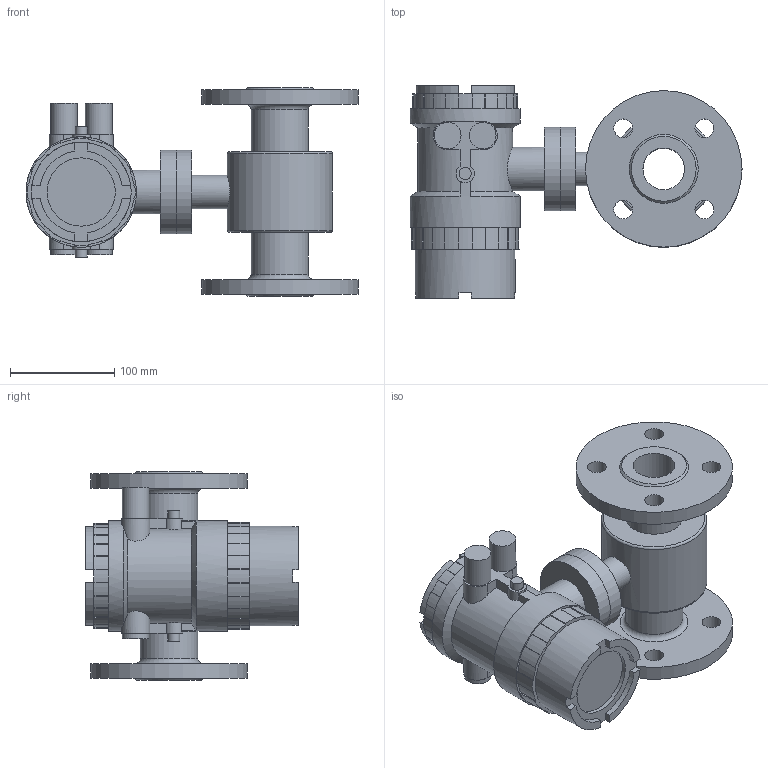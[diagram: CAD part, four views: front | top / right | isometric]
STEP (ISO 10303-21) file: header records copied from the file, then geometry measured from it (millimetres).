
FILE_DESCRIPTION( (''), '2;1');
FILE_NAME( 'QMKC_DN40.step', '2026-07-21T18:12:26+08:00', (''), (''), '', '', '');
FILE_SCHEMA (('AUTOMOTIVE_DESIGN { 1 0 10303 214 3 1 1 1 }'));
Length unit declared in the file: millimetre
Products named in the file (1): QMKC DN40
Bounding box: 318.25 x 204 x 200 mm (x, y, z)
Volume: 2814220.1 mm3; surface area: 283516.4 mm2
Topology: 2 solids, 2 shells, 218 faces, 576 edges, 386 vertices
Faces by surface type: plane 112, cylinder 96, cone 6, torus 4
Full cylindrical faces by diameter (mm): 11.6 x2, 18 x8, 25.5 x4, 32 x1, 40 x1, 42 x1, 55 x2, 65.5 x1, 80 x2, 95.5 x1, 101 x1, 105.9 x2, 150 x2
Entity records: 6724 total; most frequent: CARTESIAN_POINT 1291, DIRECTION 1150, ORIENTED_EDGE 1058, EDGE_CURVE 529, AXIS2_PLACEMENT_3D 426, VERTEX_POINT 373, LINE 298, VECTOR 298
